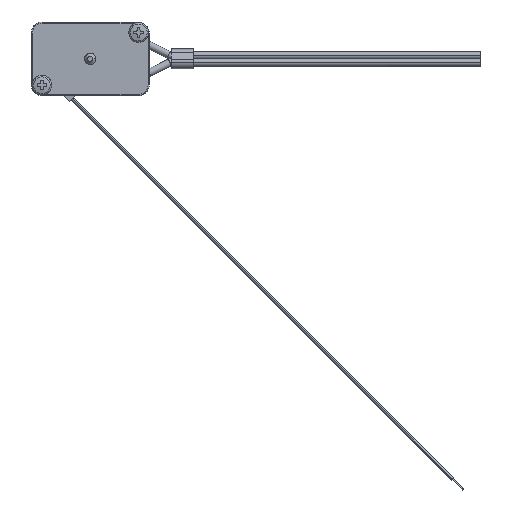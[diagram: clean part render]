
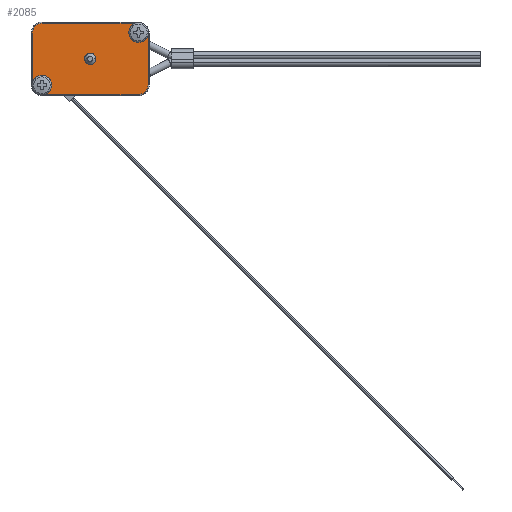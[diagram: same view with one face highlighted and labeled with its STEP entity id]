
A CAD part, top view. The second image highlights one B-rep face of the part: STEP entity #2085.
In plain terms, the highlighted planar face has unit normal (0, 0, 1).
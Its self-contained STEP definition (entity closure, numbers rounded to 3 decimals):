
#20 = EDGE_CURVE ( 'NONE', #6934, #6357, #3303, .T. ) ;
#54 = ORIENTED_EDGE ( 'NONE', *, *, #11569, .T. ) ;
#91 = CARTESIAN_POINT ( 'NONE',  ( -13.15, -7.15, 1.5 ) ) ;
#94 = AXIS2_PLACEMENT_3D ( 'NONE', #9410, #2220, #8477 ) ;
#163 = DIRECTION ( 'NONE',  ( -1., 0., 0. ) ) ;
#178 = CIRCLE ( 'NONE', #7958, 2.7 ) ;
#441 = VERTEX_POINT ( 'NONE', #7619 ) ;
#584 = EDGE_CURVE ( 'NONE', #5318, #6934, #6638, .T. ) ;
#798 = AXIS2_PLACEMENT_3D ( 'NONE', #6456, #10600, #9684 ) ;
#906 = CARTESIAN_POINT ( 'NONE',  ( -15.7, 7., 1.5 ) ) ;
#919 = ORIENTED_EDGE ( 'NONE', *, *, #959, .F. ) ;
#921 = CIRCLE ( 'NONE', #8741, 1.35 ) ;
#959 = EDGE_CURVE ( 'NONE', #9061, #10693, #178, .T. ) ;
#963 = DIRECTION ( 'NONE',  ( -1., 0., 0. ) ) ;
#1128 = CARTESIAN_POINT ( 'NONE',  ( -13.15, -7.15, 1.5 ) ) ;
#1133 = EDGE_CURVE ( 'NONE', #12918, #6953, #12167, .T. ) ;
#1139 = DIRECTION ( 'NONE',  ( 0., 0., -1. ) ) ;
#1591 = CIRCLE ( 'NONE', #5150, 1.525 ) ;
#1625 = DIRECTION ( 'NONE',  ( 0., 0., -1. ) ) ;
#1633 = CARTESIAN_POINT ( 'NONE',  ( 15.7, -5., 1.5 ) ) ;
#1764 = FACE_BOUND ( 'NONE', #5835, .T. ) ;
#1776 = EDGE_CURVE ( 'NONE', #10693, #9517, #6133, .T. ) ;
#1790 = ORIENTED_EDGE ( 'NONE', *, *, #1133, .T. ) ;
#1859 = CARTESIAN_POINT ( 'NONE',  ( 13., 9.7, 1.5 ) ) ;
#1926 = ORIENTED_EDGE ( 'NONE', *, *, #6703, .T. ) ;
#2085 = ADVANCED_FACE ( 'NONE', ( #1764, #5857, #6552, #10637 ), #3785, .T. ) ;
#2132 = DIRECTION ( 'NONE',  ( -1., 0., 0. ) ) ;
#2178 = DIRECTION ( 'NONE',  ( 0.707, 0.707, 0. ) ) ;
#2220 = DIRECTION ( 'NONE',  ( 0., 0., -1. ) ) ;
#2259 = ORIENTED_EDGE ( 'NONE', *, *, #1776, .F. ) ;
#2351 = EDGE_LOOP ( 'NONE', ( #1790, #4138 ) ) ;
#2452 = CARTESIAN_POINT ( 'NONE',  ( -13., 9.7, 1.5 ) ) ;
#2482 = VECTOR ( 'NONE', #9866, 1000. ) ;
#2714 = DIRECTION ( 'NONE',  ( -0.707, -0.707, 0. ) ) ;
#2739 = CARTESIAN_POINT ( 'NONE',  ( 13., 7., 1.5 ) ) ;
#2800 = VERTEX_POINT ( 'NONE', #7909 ) ;
#2896 = CARTESIAN_POINT ( 'NONE',  ( 0., 0., 1.5 ) ) ;
#2968 = CARTESIAN_POINT ( 'NONE',  ( -13., 7., 1.5 ) ) ;
#3048 = CARTESIAN_POINT ( 'NONE',  ( 13., 7., 1.5 ) ) ;
#3177 = CARTESIAN_POINT ( 'NONE',  ( 13., -9.7, 1.5 ) ) ;
#3303 = CIRCLE ( 'NONE', #8137, 2.7 ) ;
#3402 = ORIENTED_EDGE ( 'NONE', *, *, #10710, .T. ) ;
#3702 = AXIS2_PLACEMENT_3D ( 'NONE', #3048, #9053, #2178 ) ;
#3785 = PLANE ( 'NONE',  #11984 ) ;
#3992 = ORIENTED_EDGE ( 'NONE', *, *, #8946, .F. ) ;
#4004 = CARTESIAN_POINT ( 'NONE',  ( 14.909, 8.909, 1.5 ) ) ;
#4038 = DIRECTION ( 'NONE',  ( 0.707, -0.707, 0. ) ) ;
#4106 = CARTESIAN_POINT ( 'NONE',  ( 13., -7., 1.5 ) ) ;
#4138 = ORIENTED_EDGE ( 'NONE', *, *, #12827, .T. ) ;
#4322 = EDGE_LOOP ( 'NONE', ( #5944, #54 ) ) ;
#4693 = AXIS2_PLACEMENT_3D ( 'NONE', #91, #1139, #2132 ) ;
#4697 = VECTOR ( 'NONE', #7646, 1000. ) ;
#4833 = DIRECTION ( 'NONE',  ( 0.707, 0.707, 0. ) ) ;
#5093 = EDGE_LOOP ( 'NONE', ( #8869, #3992, #7940, #2259, #919, #11748, #5749, #6783, #8340 ) ) ;
#5109 = AXIS2_PLACEMENT_3D ( 'NONE', #2968, #6977, #6004 ) ;
#5150 = AXIS2_PLACEMENT_3D ( 'NONE', #2896, #10925, #12240 ) ;
#5211 = DIRECTION ( 'NONE',  ( -1., 0., 0. ) ) ;
#5249 = EDGE_CURVE ( 'NONE', #11908, #10050, #11797, .T. ) ;
#5259 = CARTESIAN_POINT ( 'NONE',  ( -15.7, 5., 1.5 ) ) ;
#5318 = VERTEX_POINT ( 'NONE', #12152 ) ;
#5538 = CARTESIAN_POINT ( 'NONE',  ( -13., -7., 1.5 ) ) ;
#5635 = DIRECTION ( 'NONE',  ( 0.707, 0.707, 0. ) ) ;
#5749 = ORIENTED_EDGE ( 'NONE', *, *, #20, .F. ) ;
#5835 = EDGE_LOOP ( 'NONE', ( #1926, #3402 ) ) ;
#5857 = FACE_BOUND ( 'NONE', #2351, .T. ) ;
#5944 = ORIENTED_EDGE ( 'NONE', *, *, #7597, .T. ) ;
#5973 = CARTESIAN_POINT ( 'NONE',  ( -8., -9.7, 1.5 ) ) ;
#6004 = DIRECTION ( 'NONE',  ( -0.707, 0.707, 0. ) ) ;
#6044 = LINE ( 'NONE', #5973, #8974 ) ;
#6102 = CARTESIAN_POINT ( 'NONE',  ( 13.15, 7.15, 1.5 ) ) ;
#6133 = LINE ( 'NONE', #5259, #12810 ) ;
#6357 = VERTEX_POINT ( 'NONE', #3177 ) ;
#6360 = EDGE_CURVE ( 'NONE', #10050, #5318, #9386, .T. ) ;
#6456 = CARTESIAN_POINT ( 'NONE',  ( 13.15, 7.15, 1.5 ) ) ;
#6508 = CARTESIAN_POINT ( 'NONE',  ( 15.7, -7., 1.5 ) ) ;
#6552 = FACE_BOUND ( 'NONE', #4322, .T. ) ;
#6581 = CIRCLE ( 'NONE', #4693, 1.35 ) ;
#6600 = CARTESIAN_POINT ( 'NONE',  ( -15.7, -7., 1.5 ) ) ;
#6638 = LINE ( 'NONE', #1633, #2482 ) ;
#6670 = LINE ( 'NONE', #12457, #4697 ) ;
#6703 = EDGE_CURVE ( 'NONE', #7033, #2800, #11442, .T. ) ;
#6783 = ORIENTED_EDGE ( 'NONE', *, *, #584, .F. ) ;
#6934 = VERTEX_POINT ( 'NONE', #6508 ) ;
#6953 = VERTEX_POINT ( 'NONE', #11759 ) ;
#6977 = DIRECTION ( 'NONE',  ( 0., 0., -1. ) ) ;
#7033 = VERTEX_POINT ( 'NONE', #10903 ) ;
#7176 = DIRECTION ( 'NONE',  ( 0., 1., 0. ) ) ;
#7388 = AXIS2_PLACEMENT_3D ( 'NONE', #2739, #1625, #5635 ) ;
#7561 = CIRCLE ( 'NONE', #12606, 1.35 ) ;
#7597 = EDGE_CURVE ( 'NONE', #441, #12337, #7561, .T. ) ;
#7619 = CARTESIAN_POINT ( 'NONE',  ( -14.5, -7.15, 1.5 ) ) ;
#7646 = DIRECTION ( 'NONE',  ( 1., 0., 0. ) ) ;
#7734 = VERTEX_POINT ( 'NONE', #2452 ) ;
#7909 = CARTESIAN_POINT ( 'NONE',  ( 1.525, 0., 1.5 ) ) ;
#7940 = ORIENTED_EDGE ( 'NONE', *, *, #9096, .F. ) ;
#7958 = AXIS2_PLACEMENT_3D ( 'NONE', #5538, #9643, #2714 ) ;
#8137 = AXIS2_PLACEMENT_3D ( 'NONE', #4106, #10882, #4038 ) ;
#8340 = ORIENTED_EDGE ( 'NONE', *, *, #6360, .F. ) ;
#8477 = DIRECTION ( 'NONE',  ( -1., 0., 0. ) ) ;
#8741 = AXIS2_PLACEMENT_3D ( 'NONE', #6102, #11085, #163 ) ;
#8869 = ORIENTED_EDGE ( 'NONE', *, *, #5249, .F. ) ;
#8946 = EDGE_CURVE ( 'NONE', #7734, #11908, #6670, .T. ) ;
#8974 = VECTOR ( 'NONE', #963, 1000. ) ;
#9053 = DIRECTION ( 'NONE',  ( 0., 0., -1. ) ) ;
#9061 = VERTEX_POINT ( 'NONE', #11060 ) ;
#9096 = EDGE_CURVE ( 'NONE', #9517, #7734, #10787, .T. ) ;
#9386 = CIRCLE ( 'NONE', #3702, 2.7 ) ;
#9410 = CARTESIAN_POINT ( 'NONE',  ( 0., 0., 1.5 ) ) ;
#9517 = VERTEX_POINT ( 'NONE', #906 ) ;
#9643 = DIRECTION ( 'NONE',  ( 0., 0., -1. ) ) ;
#9684 = DIRECTION ( 'NONE',  ( -1., 0., 0. ) ) ;
#9866 = DIRECTION ( 'NONE',  ( 0., -1., 0. ) ) ;
#10050 = VERTEX_POINT ( 'NONE', #4004 ) ;
#10224 = DIRECTION ( 'NONE',  ( 0., 0., -1. ) ) ;
#10568 = CARTESIAN_POINT ( 'NONE',  ( 0., 0., 1.5 ) ) ;
#10600 = DIRECTION ( 'NONE',  ( 0., 0., -1. ) ) ;
#10637 = FACE_OUTER_BOUND ( 'NONE', #5093, .T. ) ;
#10693 = VERTEX_POINT ( 'NONE', #6600 ) ;
#10710 = EDGE_CURVE ( 'NONE', #2800, #7033, #1591, .T. ) ;
#10787 = CIRCLE ( 'NONE', #5109, 2.7 ) ;
#10882 = DIRECTION ( 'NONE',  ( 0., 0., -1. ) ) ;
#10903 = CARTESIAN_POINT ( 'NONE',  ( -1.525, 0., 1.5 ) ) ;
#10925 = DIRECTION ( 'NONE',  ( 0., 0., -1. ) ) ;
#11060 = CARTESIAN_POINT ( 'NONE',  ( -13., -9.7, 1.5 ) ) ;
#11085 = DIRECTION ( 'NONE',  ( 0., 0., -1. ) ) ;
#11089 = EDGE_CURVE ( 'NONE', #6357, #9061, #6044, .T. ) ;
#11442 = CIRCLE ( 'NONE', #94, 1.525 ) ;
#11569 = EDGE_CURVE ( 'NONE', #12337, #441, #6581, .T. ) ;
#11748 = ORIENTED_EDGE ( 'NONE', *, *, #11089, .F. ) ;
#11759 = CARTESIAN_POINT ( 'NONE',  ( 14.5, 7.15, 1.5 ) ) ;
#11797 = CIRCLE ( 'NONE', #7388, 2.7 ) ;
#11908 = VERTEX_POINT ( 'NONE', #1859 ) ;
#11917 = CARTESIAN_POINT ( 'NONE',  ( -11.8, -7.15, 1.5 ) ) ;
#11984 = AXIS2_PLACEMENT_3D ( 'NONE', #10568, #12603, #4833 ) ;
#12152 = CARTESIAN_POINT ( 'NONE',  ( 15.7, 7., 1.5 ) ) ;
#12167 = CIRCLE ( 'NONE', #798, 1.35 ) ;
#12240 = DIRECTION ( 'NONE',  ( -1., 0., 0. ) ) ;
#12337 = VERTEX_POINT ( 'NONE', #11917 ) ;
#12457 = CARTESIAN_POINT ( 'NONE',  ( 8., 9.7, 1.5 ) ) ;
#12468 = CARTESIAN_POINT ( 'NONE',  ( 11.8, 7.15, 1.5 ) ) ;
#12603 = DIRECTION ( 'NONE',  ( 0., 0., 1. ) ) ;
#12606 = AXIS2_PLACEMENT_3D ( 'NONE', #1128, #10224, #5211 ) ;
#12810 = VECTOR ( 'NONE', #7176, 1000. ) ;
#12827 = EDGE_CURVE ( 'NONE', #6953, #12918, #921, .T. ) ;
#12918 = VERTEX_POINT ( 'NONE', #12468 ) ;
